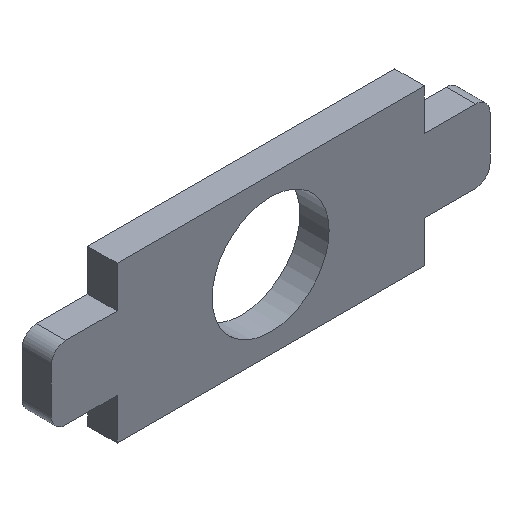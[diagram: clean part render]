
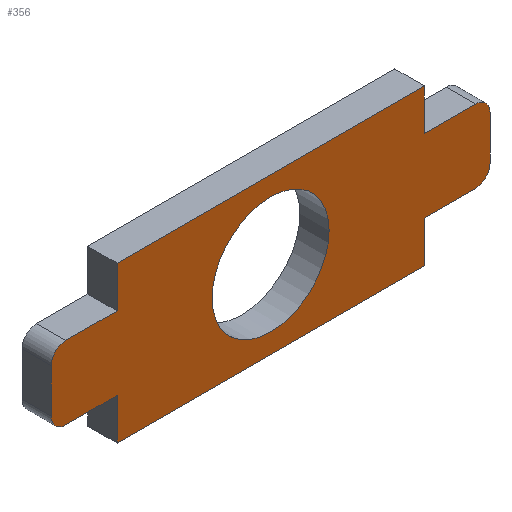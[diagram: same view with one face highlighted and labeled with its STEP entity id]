
A CAD part, isometric view. The second image highlights one B-rep face of the part: STEP entity #356.
In plain terms, the highlighted planar face has unit normal (0, -1, 0).
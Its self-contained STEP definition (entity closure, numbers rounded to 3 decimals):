
#15=FACE_BOUND('',#52,.T.);
#17=PLANE('',#397);
#32=FACE_OUTER_BOUND('',#51,.T.);
#51=EDGE_LOOP('',(#252,#253,#254,#255,#256,#257,#258,#259,#260,#261,#262,
#263,#264,#265,#266,#267));
#52=EDGE_LOOP('',(#268));
#72=LINE('',#534,#113);
#73=LINE('',#536,#114);
#74=LINE('',#538,#115);
#75=LINE('',#542,#116);
#76=LINE('',#546,#117);
#77=LINE('',#548,#118);
#78=LINE('',#550,#119);
#79=LINE('',#552,#120);
#80=LINE('',#554,#121);
#81=LINE('',#558,#122);
#82=LINE('',#562,#123);
#83=LINE('',#563,#124);
#113=VECTOR('',#434,10.);
#114=VECTOR('',#435,10.);
#115=VECTOR('',#436,10.);
#116=VECTOR('',#439,10.);
#117=VECTOR('',#442,10.);
#118=VECTOR('',#443,10.);
#119=VECTOR('',#444,10.);
#120=VECTOR('',#445,10.);
#121=VECTOR('',#446,10.);
#122=VECTOR('',#449,10.);
#123=VECTOR('',#452,10.);
#124=VECTOR('',#453,10.);
#153=CIRCLE('',#395,4.);
#155=CIRCLE('',#398,1.);
#156=CIRCLE('',#399,1.);
#157=CIRCLE('',#400,1.);
#158=CIRCLE('',#401,1.);
#163=VERTEX_POINT('',#526);
#165=VERTEX_POINT('',#532);
#166=VERTEX_POINT('',#533);
#167=VERTEX_POINT('',#535);
#168=VERTEX_POINT('',#537);
#169=VERTEX_POINT('',#539);
#170=VERTEX_POINT('',#541);
#171=VERTEX_POINT('',#543);
#172=VERTEX_POINT('',#545);
#173=VERTEX_POINT('',#547);
#174=VERTEX_POINT('',#549);
#175=VERTEX_POINT('',#551);
#176=VERTEX_POINT('',#553);
#177=VERTEX_POINT('',#555);
#178=VERTEX_POINT('',#557);
#179=VERTEX_POINT('',#559);
#180=VERTEX_POINT('',#561);
#197=EDGE_CURVE('',#163,#163,#153,.T.);
#200=EDGE_CURVE('',#165,#166,#72,.T.);
#201=EDGE_CURVE('',#166,#167,#73,.T.);
#202=EDGE_CURVE('',#167,#168,#74,.T.);
#203=EDGE_CURVE('',#168,#169,#155,.T.);
#204=EDGE_CURVE('',#169,#170,#75,.T.);
#205=EDGE_CURVE('',#170,#171,#156,.T.);
#206=EDGE_CURVE('',#171,#172,#76,.T.);
#207=EDGE_CURVE('',#172,#173,#77,.T.);
#208=EDGE_CURVE('',#173,#174,#78,.T.);
#209=EDGE_CURVE('',#174,#175,#79,.T.);
#210=EDGE_CURVE('',#175,#176,#80,.T.);
#211=EDGE_CURVE('',#176,#177,#157,.T.);
#212=EDGE_CURVE('',#177,#178,#81,.T.);
#213=EDGE_CURVE('',#178,#179,#158,.T.);
#214=EDGE_CURVE('',#179,#180,#82,.T.);
#215=EDGE_CURVE('',#180,#165,#83,.T.);
#252=ORIENTED_EDGE('',*,*,#200,.T.);
#253=ORIENTED_EDGE('',*,*,#201,.T.);
#254=ORIENTED_EDGE('',*,*,#202,.T.);
#255=ORIENTED_EDGE('',*,*,#203,.T.);
#256=ORIENTED_EDGE('',*,*,#204,.T.);
#257=ORIENTED_EDGE('',*,*,#205,.T.);
#258=ORIENTED_EDGE('',*,*,#206,.T.);
#259=ORIENTED_EDGE('',*,*,#207,.T.);
#260=ORIENTED_EDGE('',*,*,#208,.T.);
#261=ORIENTED_EDGE('',*,*,#209,.T.);
#262=ORIENTED_EDGE('',*,*,#210,.T.);
#263=ORIENTED_EDGE('',*,*,#211,.T.);
#264=ORIENTED_EDGE('',*,*,#212,.T.);
#265=ORIENTED_EDGE('',*,*,#213,.T.);
#266=ORIENTED_EDGE('',*,*,#214,.T.);
#267=ORIENTED_EDGE('',*,*,#215,.T.);
#268=ORIENTED_EDGE('',*,*,#197,.T.);
#356=ADVANCED_FACE('',(#32,#15),#17,.T.);
#395=AXIS2_PLACEMENT_3D('',#527,#427,#428);
#397=AXIS2_PLACEMENT_3D('',#531,#432,#433);
#398=AXIS2_PLACEMENT_3D('',#540,#437,#438);
#399=AXIS2_PLACEMENT_3D('',#544,#440,#441);
#400=AXIS2_PLACEMENT_3D('',#556,#447,#448);
#401=AXIS2_PLACEMENT_3D('',#560,#450,#451);
#427=DIRECTION('center_axis',(0.,1.,0.));
#428=DIRECTION('ref_axis',(1.,0.,0.));
#432=DIRECTION('center_axis',(0.,-1.,0.));
#433=DIRECTION('ref_axis',(0.,0.,-1.));
#434=DIRECTION('',(-1.,0.,0.));
#435=DIRECTION('',(0.,0.,-1.));
#436=DIRECTION('',(-1.,0.,0.));
#437=DIRECTION('center_axis',(0.,-1.,0.));
#438=DIRECTION('ref_axis',(-1.,0.,0.));
#439=DIRECTION('',(0.,0.,-1.));
#440=DIRECTION('center_axis',(0.,-1.,0.));
#441=DIRECTION('ref_axis',(0.,0.,-1.));
#442=DIRECTION('',(1.,0.,0.));
#443=DIRECTION('',(0.,0.,-1.));
#444=DIRECTION('',(1.,0.,0.));
#445=DIRECTION('',(0.,0.,1.));
#446=DIRECTION('',(1.,0.,0.));
#447=DIRECTION('center_axis',(0.,-1.,0.));
#448=DIRECTION('ref_axis',(1.,0.,0.));
#449=DIRECTION('',(0.,0.,1.));
#450=DIRECTION('center_axis',(0.,-1.,0.));
#451=DIRECTION('ref_axis',(0.,0.,1.));
#452=DIRECTION('',(-1.,0.,0.));
#453=DIRECTION('',(0.,0.,1.));
#526=CARTESIAN_POINT('',(-4.,-1.,0.));
#527=CARTESIAN_POINT('Origin',(0.,-1.,0.));
#531=CARTESIAN_POINT('Origin',(0.,-1.,0.));
#532=CARTESIAN_POINT('',(10.5,-1.,5.326));
#533=CARTESIAN_POINT('',(-10.5,-1.,5.326));
#534=CARTESIAN_POINT('',(-10.5,-1.,5.326));
#535=CARTESIAN_POINT('',(-10.5,-1.,2.5));
#536=CARTESIAN_POINT('',(-10.5,-1.,2.5));
#537=CARTESIAN_POINT('',(-14.,-1.,2.5));
#538=CARTESIAN_POINT('',(-14.,-1.,2.5));
#539=CARTESIAN_POINT('',(-15.,-1.,1.5));
#540=CARTESIAN_POINT('Origin',(-14.,-1.,1.5));
#541=CARTESIAN_POINT('',(-15.,-1.,-1.5));
#542=CARTESIAN_POINT('',(-15.,-1.,-1.5));
#543=CARTESIAN_POINT('',(-14.,-1.,-2.5));
#544=CARTESIAN_POINT('Origin',(-14.,-1.,-1.5));
#545=CARTESIAN_POINT('',(-10.5,-1.,-2.5));
#546=CARTESIAN_POINT('',(-10.5,-1.,-2.5));
#547=CARTESIAN_POINT('',(-10.5,-1.,-5.326));
#548=CARTESIAN_POINT('',(-10.5,-1.,-5.326));
#549=CARTESIAN_POINT('',(10.5,-1.,-5.326));
#550=CARTESIAN_POINT('',(10.5,-1.,-5.326));
#551=CARTESIAN_POINT('',(10.5,-1.,-2.5));
#552=CARTESIAN_POINT('',(10.5,-1.,-2.5));
#553=CARTESIAN_POINT('',(14.,-1.,-2.5));
#554=CARTESIAN_POINT('',(14.,-1.,-2.5));
#555=CARTESIAN_POINT('',(15.,-1.,-1.5));
#556=CARTESIAN_POINT('Origin',(14.,-1.,-1.5));
#557=CARTESIAN_POINT('',(15.,-1.,1.5));
#558=CARTESIAN_POINT('',(15.,-1.,1.5));
#559=CARTESIAN_POINT('',(14.,-1.,2.5));
#560=CARTESIAN_POINT('Origin',(14.,-1.,1.5));
#561=CARTESIAN_POINT('',(10.5,-1.,2.5));
#562=CARTESIAN_POINT('',(10.5,-1.,2.5));
#563=CARTESIAN_POINT('',(10.5,-1.,5.326));
